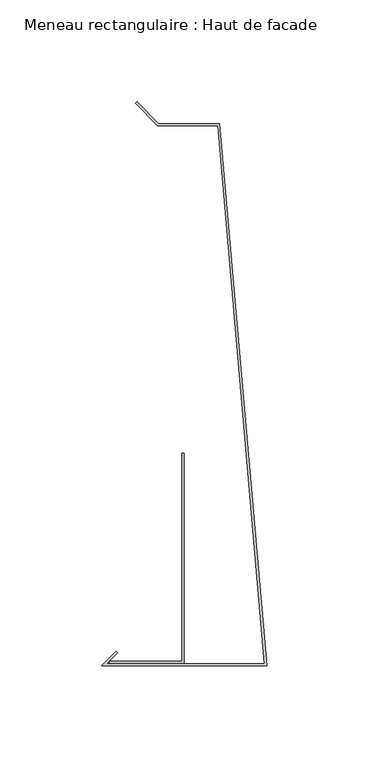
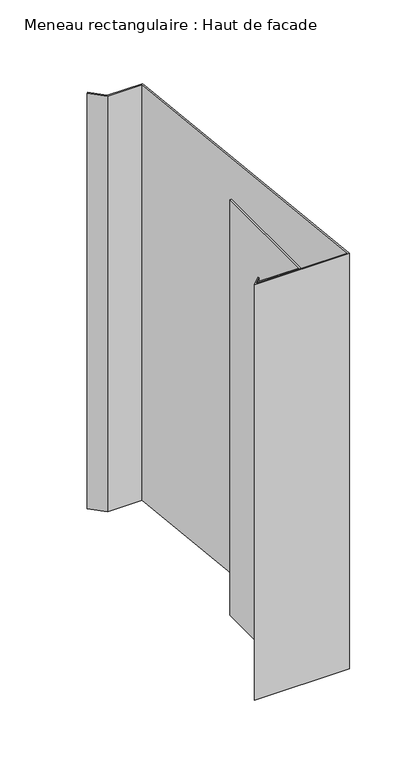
"""IFC4 building model written with IfcOpenShell, lengths in millimetres: member geometry, Meneau rectangulaire : Haut de facade."""

from ifc_helpers import new_model, si_unit, frame, origin, place, context, project, spatial, polyline, outline, extrude, source, transform, mapped, element, save


def meneau_rectangulaire_haut_de_facade_ee0e3896(model_context):
    return source(origin(), model_context, "Body", "SweptSolid", [
        extrude(outline(polyline([(-24.0647895, 160.703755), (-53.5626719, 160.703755), (-64.4621669, 171.6032499), (-63.7550601, 172.3103567), (-53.1484584, 161.703755), (-23.1484584, 161.703755), (0.0, -104.2), (-81.0, -104.2), (-73.9289322, -97.1289322), (-73.2218254, -97.836039), (-78.5857864, -103.2), (-1.0913085, -103.2), (-24.0647895, 160.703755)])), frame((0.0, 0.0, -374.9588923), z_axis=(0.0, 0.0, 1.0), x_axis=(1.0, 0.0, 0.0)), (0.0, 0.0, 1.0), 374.9588923),
        extrude(outline(polyline([(-40.5477541, -102.9846816), (-77.0752814, -102.9846816), (-77.0752814, -101.9846816), (-41.5477541, -101.9846816), (-41.5477541, -0.0384227), (-40.5477541, -0.0384227), (-40.5477541, -102.9846816)])), frame((0.0, 0.0, -374.9588923), z_axis=(0.0, 0.0, 1.0), x_axis=(1.0, 0.0, 0.0)), (0.0, 0.0, 1.0), 374.9588923),
    ])


if __name__ == "__main__":
    model = new_model("IFC4")
    model_context = context("Model", 3, world=origin())
    ifc_project = project(units=[si_unit("LENGTHUNIT", "METRE", prefix="MILLI")], contexts=[model_context])
    site = spatial("IfcSite", under=ifc_project)
    building = spatial("IfcBuilding", under=site)
    placement = place(None, origin())
    meneau_rectangulaire_haut_de_facade_shape = meneau_rectangulaire_haut_de_facade_ee0e3896(model_context)
    element("IfcMember", 1, ObjectType="Meneau rectangulaire : Haut de facade", at=placement, inside=building, context=model_context, shape_type="MappedRepresentation", body=[
        mapped(meneau_rectangulaire_haut_de_facade_shape, transform((0.0, 0.0, 0.0), x_axis=(1.0, 0.0, 0.0), y_axis=(0.0, 1.0, 0.0), z_axis=(0.0, 0.0, 1.0))),
    ])
    save(model, "model.ifc")
